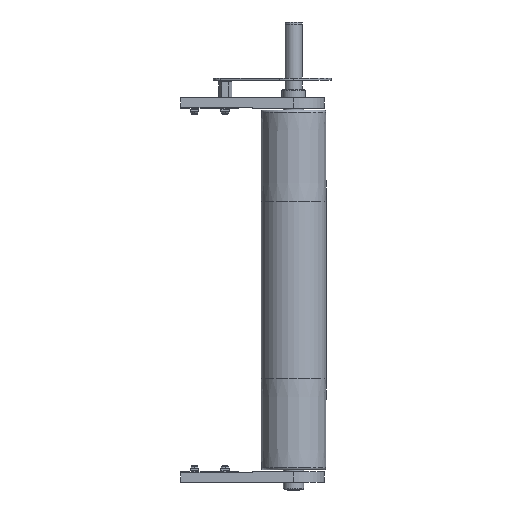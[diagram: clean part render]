
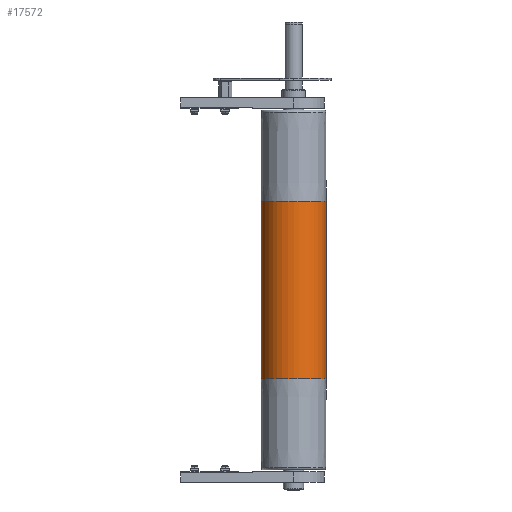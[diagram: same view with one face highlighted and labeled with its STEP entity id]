
A CAD part, front view. The second image highlights one B-rep face of the part: STEP entity #17572.
In plain terms, the highlighted cylindrical face has radius 47.5 mm (diameter 95 mm), a partial arc.
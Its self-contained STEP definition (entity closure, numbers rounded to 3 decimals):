
#63 = CARTESIAN_POINT ( 'NONE',  ( 130., 0., 0. ) ) ;
#175 = CARTESIAN_POINT ( 'NONE',  ( -130., 0., -47.5 ) ) ;
#1653 = CIRCLE ( 'NONE', #7265, 47.5 ) ;
#2337 = FACE_OUTER_BOUND ( 'NONE', #8674, .T. ) ;
#2450 = DIRECTION ( 'NONE',  ( -1., 0., 0. ) ) ;
#2623 = ORIENTED_EDGE ( 'NONE', *, *, #19069, .T. ) ;
#3314 = DIRECTION ( 'NONE',  ( 0., 0., 1. ) ) ;
#3640 = VERTEX_POINT ( 'NONE', #14747 ) ;
#3888 = CARTESIAN_POINT ( 'NONE',  ( 260., 0., 47.5 ) ) ;
#4505 = EDGE_CURVE ( 'NONE', #3640, #5873, #1653, .T. ) ;
#5756 = LINE ( 'NONE', #19669, #19440 ) ;
#5873 = VERTEX_POINT ( 'NONE', #6337 ) ;
#6110 = DIRECTION ( 'NONE',  ( 1., 0., 0. ) ) ;
#6337 = CARTESIAN_POINT ( 'NONE',  ( 130., 0., -47.5 ) ) ;
#6648 = CARTESIAN_POINT ( 'NONE',  ( 260., 0., 0. ) ) ;
#6749 = CARTESIAN_POINT ( 'NONE',  ( -130., 0., 47.5 ) ) ;
#6889 = ORIENTED_EDGE ( 'NONE', *, *, #4505, .F. ) ;
#6957 = EDGE_CURVE ( 'NONE', #3640, #17075, #8906, .T. ) ;
#7265 = AXIS2_PLACEMENT_3D ( 'NONE', #63, #18902, #14468 ) ;
#7761 = AXIS2_PLACEMENT_3D ( 'NONE', #18766, #6110, #17115 ) ;
#8496 = AXIS2_PLACEMENT_3D ( 'NONE', #6648, #14533, #3314 ) ;
#8674 = EDGE_LOOP ( 'NONE', ( #11089, #6889, #9669, #2623 ) ) ;
#8906 = LINE ( 'NONE', #3888, #15652 ) ;
#9669 = ORIENTED_EDGE ( 'NONE', *, *, #6957, .T. ) ;
#11089 = ORIENTED_EDGE ( 'NONE', *, *, #17172, .F. ) ;
#12275 = VERTEX_POINT ( 'NONE', #175 ) ;
#14468 = DIRECTION ( 'NONE',  ( 0., 0., -1. ) ) ;
#14533 = DIRECTION ( 'NONE',  ( -1., 0., 0. ) ) ;
#14747 = CARTESIAN_POINT ( 'NONE',  ( 130., 0., 47.5 ) ) ;
#15042 = DIRECTION ( 'NONE',  ( -1., 0., 0. ) ) ;
#15222 = CYLINDRICAL_SURFACE ( 'NONE', #8496, 47.5 ) ;
#15652 = VECTOR ( 'NONE', #2450, 1000. ) ;
#17075 = VERTEX_POINT ( 'NONE', #6749 ) ;
#17115 = DIRECTION ( 'NONE',  ( 0., 0., -1. ) ) ;
#17172 = EDGE_CURVE ( 'NONE', #5873, #12275, #5756, .T. ) ;
#17572 = ADVANCED_FACE ( 'NONE', ( #2337 ), #15222, .T. ) ;
#18742 = CIRCLE ( 'NONE', #7761, 47.5 ) ;
#18766 = CARTESIAN_POINT ( 'NONE',  ( -130., 0., 0. ) ) ;
#18902 = DIRECTION ( 'NONE',  ( 1., 0., 0. ) ) ;
#19069 = EDGE_CURVE ( 'NONE', #17075, #12275, #18742, .T. ) ;
#19440 = VECTOR ( 'NONE', #15042, 1000. ) ;
#19669 = CARTESIAN_POINT ( 'NONE',  ( 260., 0., -47.5 ) ) ;
